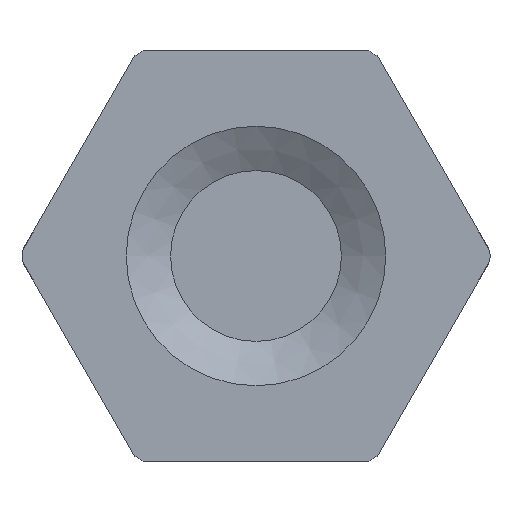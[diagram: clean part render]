
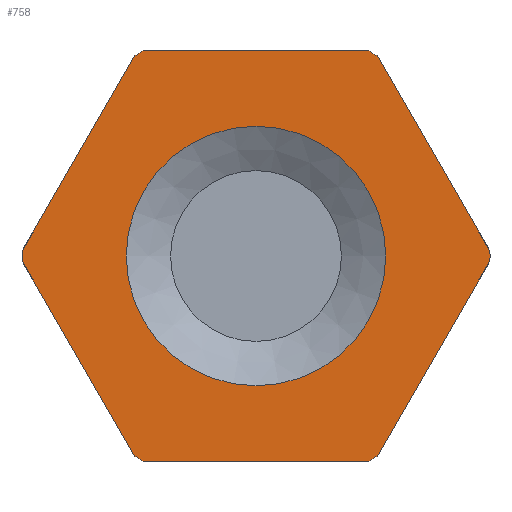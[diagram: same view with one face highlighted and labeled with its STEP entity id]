
A CAD part, left-side view. The second image highlights one B-rep face of the part: STEP entity #758.
In plain terms, the highlighted planar face has unit normal (-1, 0, 0).
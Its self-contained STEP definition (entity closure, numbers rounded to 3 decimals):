
#18=LINE($,#1181,#60);
#19=LINE($,#1185,#61);
#20=LINE($,#1189,#62);
#21=LINE($,#1193,#63);
#22=LINE($,#1197,#64);
#23=LINE($,#1201,#65);
#60=VECTOR($,#970,3.485);
#61=VECTOR($,#973,3.485);
#62=VECTOR($,#976,3.485);
#63=VECTOR($,#979,3.485);
#64=VECTOR($,#982,3.485);
#65=VECTOR($,#985,3.485);
#113=PLANE($,#830);
#165=FACE_BOUND($,#255,.T.);
#166=FACE_BOUND($,#256,.T.);
#255=EDGE_LOOP($,(#535));
#256=EDGE_LOOP($,(#536,#537,#538,#539,#540,#541,#542,#543,#544,#545,#546,
#547));
#285=CIRCLE($,#789,2.007);
#306=CIRCLE($,#831,3.619);
#307=CIRCLE($,#832,3.619);
#308=CIRCLE($,#833,3.619);
#309=CIRCLE($,#834,3.619);
#310=CIRCLE($,#835,3.619);
#311=CIRCLE($,#836,3.619);
#331=VERTEX_POINT($,#1116);
#352=VERTEX_POINT($,#1179);
#353=VERTEX_POINT($,#1180);
#354=VERTEX_POINT($,#1182);
#355=VERTEX_POINT($,#1184);
#356=VERTEX_POINT($,#1186);
#357=VERTEX_POINT($,#1188);
#358=VERTEX_POINT($,#1190);
#359=VERTEX_POINT($,#1192);
#360=VERTEX_POINT($,#1194);
#361=VERTEX_POINT($,#1196);
#362=VERTEX_POINT($,#1198);
#363=VERTEX_POINT($,#1200);
#401=EDGE_CURVE($,#331,#331,#285,.T.);
#422=EDGE_CURVE($,#352,#353,#18,.T.);
#423=EDGE_CURVE($,#354,#353,#306,.T.);
#424=EDGE_CURVE($,#354,#355,#19,.T.);
#425=EDGE_CURVE($,#356,#355,#307,.T.);
#426=EDGE_CURVE($,#356,#357,#20,.T.);
#427=EDGE_CURVE($,#358,#357,#308,.T.);
#428=EDGE_CURVE($,#358,#359,#21,.T.);
#429=EDGE_CURVE($,#360,#359,#309,.T.);
#430=EDGE_CURVE($,#360,#361,#22,.T.);
#431=EDGE_CURVE($,#362,#361,#310,.T.);
#432=EDGE_CURVE($,#362,#363,#23,.T.);
#433=EDGE_CURVE($,#352,#363,#311,.T.);
#535=ORIENTED_EDGE($,*,*,#401,.T.);
#536=ORIENTED_EDGE($,*,*,#422,.T.);
#537=ORIENTED_EDGE($,*,*,#423,.F.);
#538=ORIENTED_EDGE($,*,*,#424,.T.);
#539=ORIENTED_EDGE($,*,*,#425,.F.);
#540=ORIENTED_EDGE($,*,*,#426,.T.);
#541=ORIENTED_EDGE($,*,*,#427,.F.);
#542=ORIENTED_EDGE($,*,*,#428,.T.);
#543=ORIENTED_EDGE($,*,*,#429,.F.);
#544=ORIENTED_EDGE($,*,*,#430,.T.);
#545=ORIENTED_EDGE($,*,*,#431,.F.);
#546=ORIENTED_EDGE($,*,*,#432,.T.);
#547=ORIENTED_EDGE($,*,*,#433,.F.);
#758=ADVANCED_FACE($,(#165,#166),#113,.T.);
#789=AXIS2_PLACEMENT_3D($,#1117,#886,#887);
#830=AXIS2_PLACEMENT_3D($,#1178,#968,#969);
#831=AXIS2_PLACEMENT_3D($,#1183,#971,#972);
#832=AXIS2_PLACEMENT_3D($,#1187,#974,#975);
#833=AXIS2_PLACEMENT_3D($,#1191,#977,#978);
#834=AXIS2_PLACEMENT_3D($,#1195,#980,#981);
#835=AXIS2_PLACEMENT_3D($,#1199,#983,#984);
#836=AXIS2_PLACEMENT_3D($,#1202,#986,#987);
#886=DIRECTION('center_axis',(1.,0.,0.));
#887=DIRECTION('ref_axis',(0.,-1.,0.));
#968=DIRECTION('center_axis',(-1.,0.,0.));
#969=DIRECTION('ref_axis',(0.,0.,
1.));
#970=DIRECTION($,(0.,0.5,-0.866));
#971=DIRECTION('center_axis',(1.,0.,0.));
#972=DIRECTION('ref_axis',(0.,0.,
-1.));
#973=DIRECTION($,(0.,-0.5,-0.866));
#974=DIRECTION('center_axis',(1.,0.,0.));
#975=DIRECTION('ref_axis',(0.,0.,
-1.));
#976=DIRECTION($,(0.,-1.,0.));
#977=DIRECTION('center_axis',(1.,0.,0.));
#978=DIRECTION('ref_axis',(0.,0.,
-1.));
#979=DIRECTION($,(0.,-0.5,0.866));
#980=DIRECTION('center_axis',(1.,0.,0.));
#981=DIRECTION('ref_axis',(0.,0.,
-1.));
#982=DIRECTION($,(0.,0.5,0.866));
#983=DIRECTION('center_axis',(1.,0.,0.));
#984=DIRECTION('ref_axis',(0.,0.,
-1.));
#985=DIRECTION($,(0.,1.,0.));
#986=DIRECTION('center_axis',(1.,0.,0.));
#987=DIRECTION('ref_axis',(0.,0.,
-1.));
#1116=CARTESIAN_POINT('',(-14.343,6.718,1.678));
#1117=CARTESIAN_POINT('Origin',(-14.343,8.725,1.678));
#1178=CARTESIAN_POINT('Origin',(-14.343,12.344,1.678));
#1179=CARTESIAN_POINT('',(-14.343,10.601,4.773));
#1180=CARTESIAN_POINT('',(-14.343,12.343,1.755));
#1181=CARTESIAN_POINT($,(-14.343,11.914,2.498));
#1182=CARTESIAN_POINT('',(-14.343,12.343,1.601));
#1183=CARTESIAN_POINT('Origin',(-14.343,8.725,1.678));
#1184=CARTESIAN_POINT('',(-14.343,10.601,-1.417));
#1185=CARTESIAN_POINT($,(-14.343,11.934,0.893));
#1186=CARTESIAN_POINT('',(-14.343,10.467,-1.494));
#1187=CARTESIAN_POINT('Origin',(-14.343,8.725,1.678));
#1188=CARTESIAN_POINT('',(-14.343,6.982,-1.494));
#1189=CARTESIAN_POINT($,(-14.343,10.554,-1.494));
#1190=CARTESIAN_POINT('',(-14.343,6.849,-1.417));
#1191=CARTESIAN_POINT('Origin',(-14.343,8.725,1.678));
#1192=CARTESIAN_POINT('',(-14.343,5.107,1.601));
#1193=CARTESIAN_POINT($,(-14.343,6.44,-0.709));
#1194=CARTESIAN_POINT('',(-14.343,5.107,1.755));
#1195=CARTESIAN_POINT('Origin',(-14.343,8.725,1.678));
#1196=CARTESIAN_POINT('',(-14.343,6.849,4.773));
#1197=CARTESIAN_POINT($,(-14.343,6.42,4.03));
#1198=CARTESIAN_POINT('',(-14.343,6.982,4.85));
#1199=CARTESIAN_POINT('Origin',(-14.343,8.725,1.678));
#1200=CARTESIAN_POINT('',(-14.343,10.467,4.85));
#1201=CARTESIAN_POINT($,(-14.343,10.514,4.85));
#1202=CARTESIAN_POINT('Origin',(-14.343,8.725,1.678));
